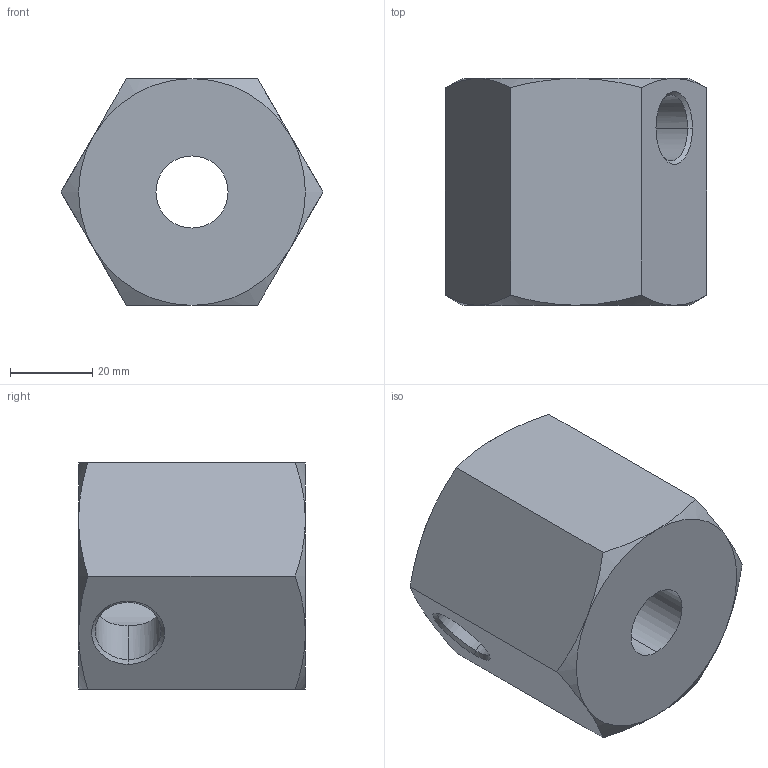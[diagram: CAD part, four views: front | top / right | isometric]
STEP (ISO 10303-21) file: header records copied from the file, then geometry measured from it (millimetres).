
FILE_DESCRIPTION (( 'STEP AP203' ), '1' );
FILE_NAME ('30400.W0245.step', '2011-03-01T17:12:37', ( 'Wixroyd' ), ( 'Wixroyd' ), 'SwSTEP 2.0', 'SolidWorks 2009', '' );
FILE_SCHEMA (( 'CONFIG_CONTROL_DESIGN' ));
Length unit declared in the file: millimetre
Products named in the file (1): 30400.W0245
Bounding box: 63.51 x 55 x 55 mm (x, y, z)
Volume: 113347.8 mm3; surface area: 19756.4 mm2
Topology: 1 solids, 1 shells, 33 faces, 74 edges, 44 vertices
Faces by surface type: cone 16, plane 9, cylinder 8
Entity records: 1309 total; most frequent: CARTESIAN_POINT 520, ORIENTED_EDGE 148, DIRECTION 142, EDGE_CURVE 74, AXIS2_PLACEMENT_3D 62, VERTEX_POINT 44, EDGE_LOOP 40, ADVANCED_FACE 33
